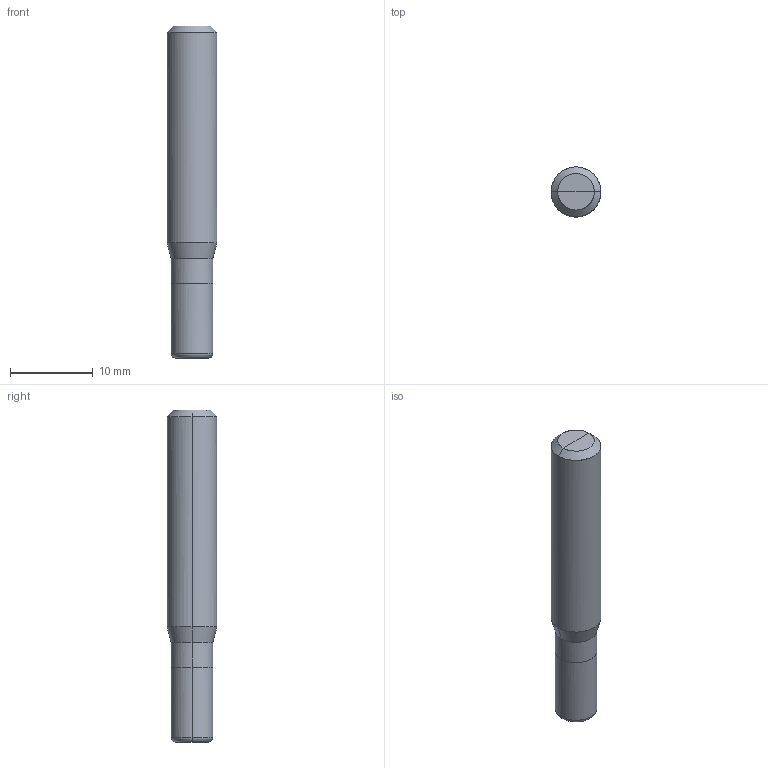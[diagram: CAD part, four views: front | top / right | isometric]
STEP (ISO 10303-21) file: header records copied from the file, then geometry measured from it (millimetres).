
FILE_DESCRIPTION(/* description */ (''),/* implementation_level */ '2;1');
FILE_NAME(/*name*/ '5031-5F-0.5R',/*time_stamp*/'2021-4-28T10:37:43',/*author*/ ('ISBE GmbH'),/*organization*/ ('ISBE GmbH'),/*preprocessor_version*/ 'STEP IO v1.0',/*originating_system*/ '',/*authorisation*/ '');
FILE_SCHEMA (('AUTOMOTIVE_DESIGN'));
Length unit declared in the file: millimetre
Products named in the file (1): Document
Bounding box: 6 x 5.99 x 40 mm (x, y, z)
Surface area: 789.6 mm2 (no closed solid volume)
Topology: 0 solids, 20 shells, 20 faces, 85 edges, 82 vertices
Faces by surface type: bspline 20
Entity records: 1237 total; most frequent: CARTESIAN_POINT 870, VERTEX_POINT 72, EDGE_CURVE 72, ORIENTED_EDGE 72, EDGE_LOOP 20, FACE_OUTER_BOUND 20, ADVANCED_FACE 20, DIRECTION 16
